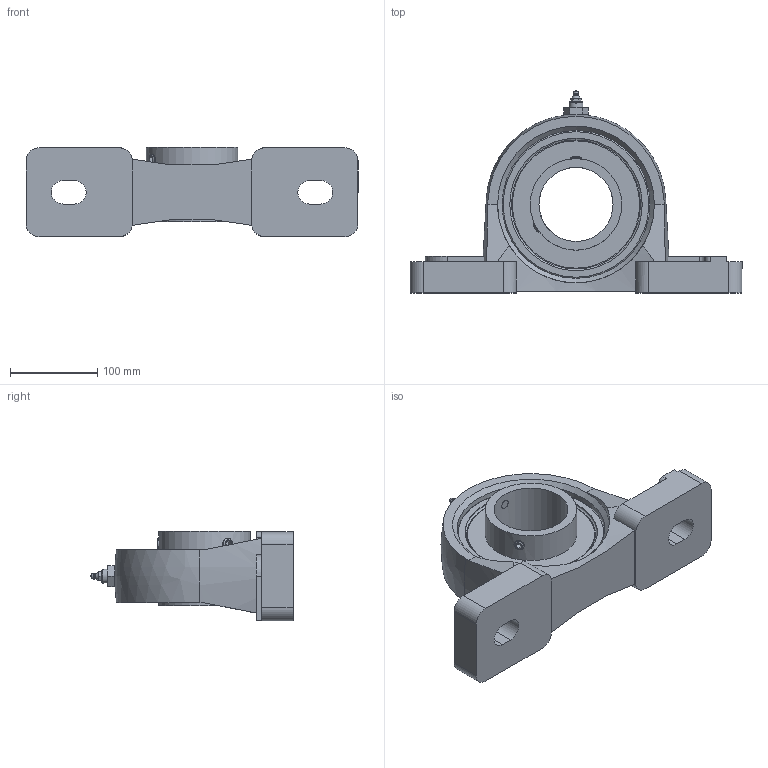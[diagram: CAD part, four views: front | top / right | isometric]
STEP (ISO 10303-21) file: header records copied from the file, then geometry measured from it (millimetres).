
FILE_DESCRIPTION((''),'2;1');
FILE_NAME('\\Ts-tgl068\J-Cad-D-BASE\00.3DCADデータ作成フォルダ\01.ピロー形\UCEP200\UCEP217.stp','2014-04-18T09:43:00',('btec_1106_2'),(''),'Autodesk Inventor 2012','Autodesk Inventor 2012','');
FILE_SCHEMA(('AUTOMOTIVE_DESIGN { 1 0 10303 214 1 1 1 1 }'));
Length unit declared in the file: millimetre
Products named in the file (7): UCEP200; EP217; AU110-4; EC217; シリーズUC [番手=217 ul]; M16X2; G1
Assembly tree (6 placements, depth 2):
  UCEP200
    EP217
    AU110-4
    EC217
    シリーズUC [番手=217 ul]
    M16X2
    G1
Bounding box: 381 x 231.99 x 102.6 mm (x, y, z)
Volume: 2407265.6 mm3; surface area: 303475.9 mm2
Topology: 6 solids, 6 shells, 173 faces, 429 edges, 276 vertices
Faces by surface type: plane 91, cylinder 48, cone 21, torus 8, sphere 4, bspline 1
Full cylindrical faces by diameter (mm): 4 x1, 8 x1, 8.566 x1, 9.728 x1, 12 x2, 13.835 x2, 16 x1, 85 x1, 105 x2, 152 x2, 170 x2
Entity records: 5391 total; most frequent: CARTESIAN_POINT 1212, DIRECTION 848, ORIENTED_EDGE 756, EDGE_CURVE 378, AXIS2_PLACEMENT_3D 331, VERTEX_POINT 262, EDGE_LOOP 234, VECTOR 186
